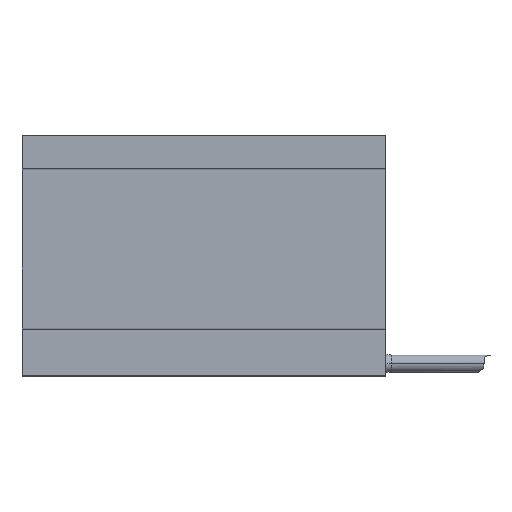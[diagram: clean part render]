
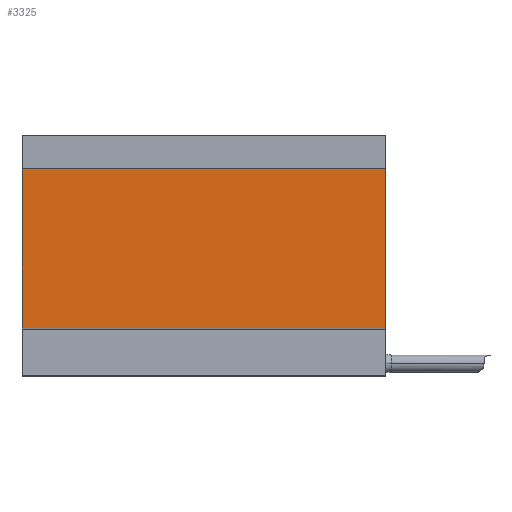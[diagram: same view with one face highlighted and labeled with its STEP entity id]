
A CAD part, top view. The second image highlights one B-rep face of the part: STEP entity #3325.
In plain terms, the highlighted planar face has unit normal (0, 0, 1).
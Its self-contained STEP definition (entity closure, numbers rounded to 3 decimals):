
#35 = LINE ( 'NONE', #3521, #535 ) ;
#129 = ORIENTED_EDGE ( 'NONE', *, *, #1939, .T. ) ;
#454 = CARTESIAN_POINT ( 'NONE',  ( -84.097, 119.703, 43.079 ) ) ;
#535 = VECTOR ( 'NONE', #1501, 1000. ) ;
#620 = FACE_OUTER_BOUND ( 'NONE', #3096, .T. ) ;
#703 = DIRECTION ( 'NONE',  ( 0., -1., 0. ) ) ;
#853 = CARTESIAN_POINT ( 'NONE',  ( 36.903, 119.703, 43.079 ) ) ;
#876 = DIRECTION ( 'NONE',  ( 0., 0., -1. ) ) ;
#881 = ORIENTED_EDGE ( 'NONE', *, *, #2100, .T. ) ;
#1070 = LINE ( 'NONE', #3300, #3267 ) ;
#1174 = CARTESIAN_POINT ( 'NONE',  ( -84.097, 119.703, 43.079 ) ) ;
#1480 = PLANE ( 'NONE',  #1587 ) ;
#1501 = DIRECTION ( 'NONE',  ( 1., 0., 0. ) ) ;
#1540 = CARTESIAN_POINT ( 'NONE',  ( -84.097, 66.803, 43.079 ) ) ;
#1587 = AXIS2_PLACEMENT_3D ( 'NONE', #3187, #876, #2850 ) ;
#1688 = DIRECTION ( 'NONE',  ( 0., -1., 0. ) ) ;
#1713 = EDGE_CURVE ( 'NONE', #3729, #2553, #1897, .T. ) ;
#1806 = ORIENTED_EDGE ( 'NONE', *, *, #1713, .F. ) ;
#1897 = LINE ( 'NONE', #454, #2401 ) ;
#1939 = EDGE_CURVE ( 'NONE', #2222, #3023, #35, .T. ) ;
#2100 = EDGE_CURVE ( 'NONE', #3729, #2222, #2842, .T. ) ;
#2222 = VERTEX_POINT ( 'NONE', #1540 ) ;
#2401 = VECTOR ( 'NONE', #2764, 1000. ) ;
#2553 = VERTEX_POINT ( 'NONE', #853 ) ;
#2706 = EDGE_CURVE ( 'NONE', #2553, #3023, #1070, .T. ) ;
#2764 = DIRECTION ( 'NONE',  ( 1., 0., 0. ) ) ;
#2842 = LINE ( 'NONE', #3453, #3385 ) ;
#2850 = DIRECTION ( 'NONE',  ( 0., 1., 0. ) ) ;
#2932 = CARTESIAN_POINT ( 'NONE',  ( 36.903, 66.803, 43.079 ) ) ;
#3023 = VERTEX_POINT ( 'NONE', #2932 ) ;
#3096 = EDGE_LOOP ( 'NONE', ( #3535, #1806, #881, #129 ) ) ;
#3187 = CARTESIAN_POINT ( 'NONE',  ( -84.097, 66.803, 43.079 ) ) ;
#3267 = VECTOR ( 'NONE', #703, 1000. ) ;
#3300 = CARTESIAN_POINT ( 'NONE',  ( 36.903, 66.803, 43.079 ) ) ;
#3325 = ADVANCED_FACE ( 'NONE', ( #620 ), #1480, .F. ) ;
#3385 = VECTOR ( 'NONE', #1688, 1000. ) ;
#3453 = CARTESIAN_POINT ( 'NONE',  ( -84.097, 66.803, 43.079 ) ) ;
#3521 = CARTESIAN_POINT ( 'NONE',  ( -84.097, 66.803, 43.079 ) ) ;
#3535 = ORIENTED_EDGE ( 'NONE', *, *, #2706, .F. ) ;
#3729 = VERTEX_POINT ( 'NONE', #1174 ) ;
